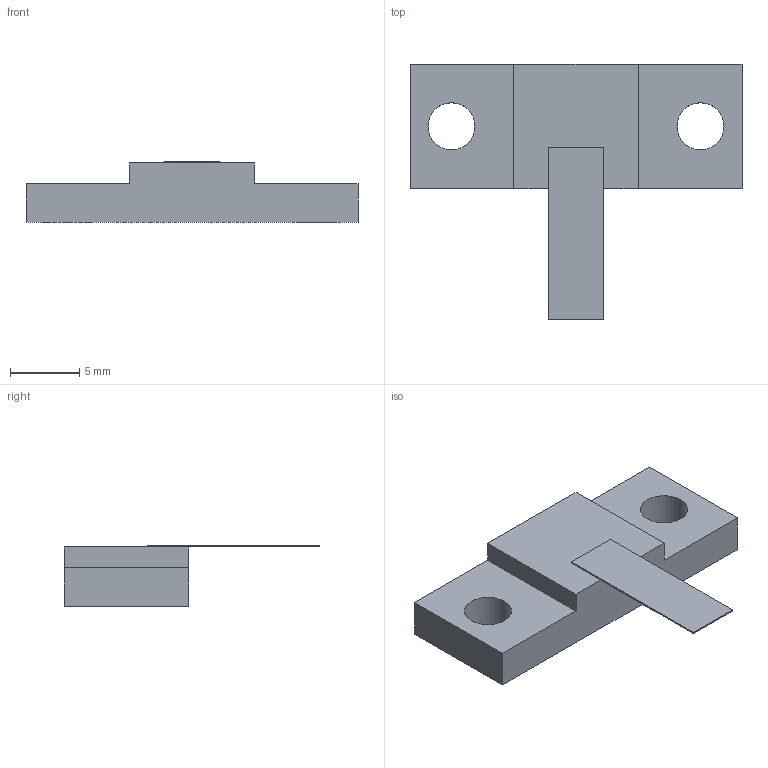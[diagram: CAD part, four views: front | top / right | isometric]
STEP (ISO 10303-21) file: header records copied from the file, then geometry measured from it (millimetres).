
FILE_DESCRIPTION(('STEP AP203'), '1');
FILE_NAME('Ð1-17-250-2', '', ('UNSPECIFIED'), ('UNSPECIFIED'), 'ASCON STEP Converter 1.6', 'ASCON Math Kernel', '');
FILE_SCHEMA(('CONFIG_CONTROL_DESIGN'));
Length unit declared in the file: millimetre
Bounding box: 24 x 18.5 x 4.4 mm (x, y, z)
Volume: 680.3 mm3; surface area: 783 mm2
Topology: 1 solids, 2 shells, 37 faces, 97 edges, 64 vertices
Faces by surface type: plane 31, cylinder 6
Full cylindrical faces by diameter (mm): 3.4 x2
Entity records: 1467 total; most frequent: CARTESIAN_POINT 197, ORIENTED_EDGE 190, DIRECTION 183, EDGE_CURVE 95, LINE 83, VECTOR 83, VERTEX_POINT 64, AXIS2_PLACEMENT_3D 50
